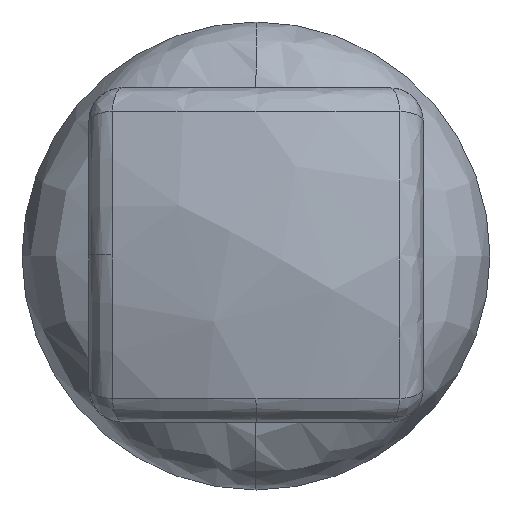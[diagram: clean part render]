
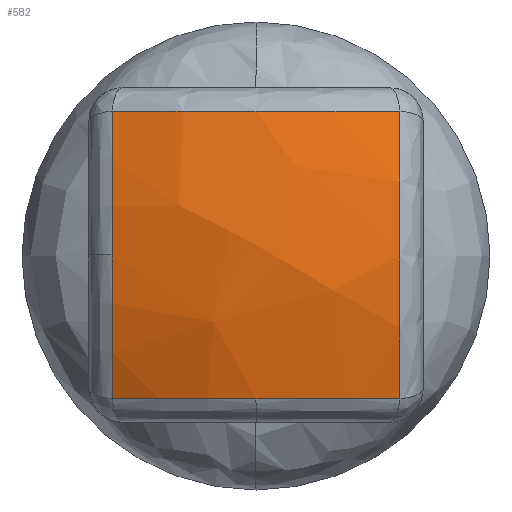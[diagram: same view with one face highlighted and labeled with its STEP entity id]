
A CAD part, front view. The second image highlights one B-rep face of the part: STEP entity #582.
In plain terms, the highlighted free-form (B-spline) face has degree [3, 3] with [4, 4] control points.
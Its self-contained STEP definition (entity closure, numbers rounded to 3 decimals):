
#100 = VERTEX_POINT ( 'NONE', #968 ) ;
#102 = EDGE_CURVE ( 'NONE', #100, #103, #967, .T. ) ;
#103 = VERTEX_POINT ( 'NONE', #962 ) ;
#122 = EDGE_CURVE ( 'NONE', #128, #147, #1186, .T. ) ;
#128 = VERTEX_POINT ( 'NONE', #1199 ) ;
#147 = VERTEX_POINT ( 'NONE', #1157 ) ;
#380 = VERTEX_POINT ( 'NONE', #2631 ) ;
#381 = VERTEX_POINT ( 'NONE', #2630 ) ;
#563 = ORIENTED_EDGE ( 'NONE', *, *, #564, .F. ) ;
#564 = EDGE_CURVE ( 'NONE', #147, #380, #2456, .T. ) ;
#565 = ORIENTED_EDGE ( 'NONE', *, *, #122, .F. ) ;
#566 = ORIENTED_EDGE ( 'NONE', *, *, #567, .F. ) ;
#567 = EDGE_CURVE ( 'NONE', #103, #128, #2418, .T. ) ;
#568 = ORIENTED_EDGE ( 'NONE', *, *, #102, .F. ) ;
#570 = ORIENTED_EDGE ( 'NONE', *, *, #571, .F. ) ;
#571 = EDGE_CURVE ( 'NONE', #381, #100, #2471, .T. ) ;
#582 = ADVANCED_FACE ( 'NONE', ( #2465 ), #2477, .T. ) ;
#583 = EDGE_LOOP ( 'NONE', ( #584, #563, #565, #566, #568, #570 ) ) ;
#584 = ORIENTED_EDGE ( 'NONE', *, *, #585, .F. ) ;
#585 = EDGE_CURVE ( 'NONE', #380, #381, #2478, .T. ) ;
#962 = CARTESIAN_POINT ( 'NONE',  ( 81.157, 300.657, 748.783 ) ) ;
#963 = DIRECTION ( 'NONE',  ( 0., -1., 0. ) ) ;
#964 = DIRECTION ( 'NONE',  ( 0., 0., -1. ) ) ;
#965 = CARTESIAN_POINT ( 'NONE',  ( 89.765, 326.187, 748.783 ) ) ;
#966 = AXIS2_PLACEMENT_3D ( 'NONE', #965, #964, #963 ) ;
#967 = CIRCLE ( 'NONE', #966, 26.942 ) ;
#968 = CARTESIAN_POINT ( 'NONE',  ( 89.765, 299.245, 748.783 ) ) ;
#1136 = DIRECTION ( 'NONE',  ( 0., -1., 0. ) ) ;
#1137 = DIRECTION ( 'NONE',  ( -1., 0., 0. ) ) ;
#1138 = CARTESIAN_POINT ( 'NONE',  ( 81.157, 326.187, 757.392 ) ) ;
#1157 = CARTESIAN_POINT ( 'NONE',  ( 81.157, 300.657, 766.001 ) ) ;
#1185 = AXIS2_PLACEMENT_3D ( 'NONE', #1138, #1137, #1136 ) ;
#1186 = CIRCLE ( 'NONE', #1185, 26.942 ) ;
#1199 = CARTESIAN_POINT ( 'NONE',  ( 81.157, 299.245, 757.392 ) ) ;
#2413 = CARTESIAN_POINT ( 'NONE',  ( 89.765, 326.187, 748.783 ) ) ;
#2414 = DIRECTION ( 'NONE',  ( 0., -1., 0. ) ) ;
#2415 = DIRECTION ( 'NONE',  ( -1., 0., 0. ) ) ;
#2416 = CARTESIAN_POINT ( 'NONE',  ( 81.157, 326.187, 757.392 ) ) ;
#2417 = AXIS2_PLACEMENT_3D ( 'NONE', #2416, #2415, #2414 ) ;
#2418 = CIRCLE ( 'NONE', #2417, 26.942 ) ;
#2419 = DIRECTION ( 'NONE',  ( 0., 1., 0. ) ) ;
#2445 = DIRECTION ( 'NONE',  ( 0., 1., 0. ) ) ;
#2446 = DIRECTION ( 'NONE',  ( 1., 0., 0. ) ) ;
#2447 = CARTESIAN_POINT ( 'NONE',  ( 81.667, 301.689, 745.805 ) ) ;
#2448 = CARTESIAN_POINT ( 'NONE',  ( 80.512, 299.262, 751.743 ) ) ;
#2449 = CARTESIAN_POINT ( 'NONE',  ( 78.634, 299.387, 757.984 ) ) ;
#2450 = CARTESIAN_POINT ( 'NONE',  ( 76.348, 302.043, 763.48 ) ) ;
#2451 = CARTESIAN_POINT ( 'NONE',  ( 88.81, 299.16, 746.16 ) ) ;
#2452 = CARTESIAN_POINT ( 'NONE',  ( 87.435, 296.268, 753.235 ) ) ;
#2453 = CARTESIAN_POINT ( 'NONE',  ( 85.197, 296.417, 760.67 ) ) ;
#2454 = DIRECTION ( 'NONE',  ( 0., 0., 1. ) ) ;
#2455 = AXIS2_PLACEMENT_3D ( 'NONE', #2490, #2454, #2419 ) ;
#2456 = CIRCLE ( 'NONE', #2455, 26.942 ) ;
#2465 = FACE_OUTER_BOUND ( 'NONE', #583, .T. ) ;
#2468 = DIRECTION ( 'NONE',  ( 0., -1., 0. ) ) ;
#2469 = DIRECTION ( 'NONE',  ( 0., 0., -1. ) ) ;
#2470 = AXIS2_PLACEMENT_3D ( 'NONE', #2413, #2469, #2468 ) ;
#2471 = CIRCLE ( 'NONE', #2470, 26.942 ) ;
#2475 = CARTESIAN_POINT ( 'NONE',  ( 98.374, 326.187, 757.392 ) ) ;
#2476 = AXIS2_PLACEMENT_3D ( 'NONE', #2475, #2446, #2445 ) ;
#2477 =( BOUNDED_SURFACE ( )  B_SPLINE_SURFACE ( 3, 3, ( 
 ( #2489, #2488, #2487, #2486 ),
 ( #2485, #2484, #2483, #2482 ),
 ( #2481, #2453, #2452, #2451 ),
 ( #2450, #2449, #2448, #2447 ) ),
 .UNSPECIFIED., .F., .F., .F. ) 
 B_SPLINE_SURFACE_WITH_KNOTS ( ( 4, 4 ),
 ( 4, 4 ),
 ( 0., 1. ),
 ( 0., 1. ),
 .UNSPECIFIED. ) 
 GEOMETRIC_REPRESENTATION_ITEM ( )  RATIONAL_B_SPLINE_SURFACE ( (
 ( 1., 0.944, 0.944, 1.),
 ( 0.949, 0.896, 0.896, 0.949),
 ( 0.949, 0.896, 0.896, 0.949),
 ( 1., 0.944, 0.944, 1.) ) ) 
 REPRESENTATION_ITEM ( '' )  SURFACE ( )  );
#2478 = CIRCLE ( 'NONE', #2476, 26.942 ) ;
#2481 = CARTESIAN_POINT ( 'NONE',  ( 82.474, 299.582, 767.218 ) ) ;
#2482 = CARTESIAN_POINT ( 'NONE',  ( 96.242, 299.332, 747.675 ) ) ;
#2483 = CARTESIAN_POINT ( 'NONE',  ( 94.78, 296.26, 755.192 ) ) ;
#2484 = CARTESIAN_POINT ( 'NONE',  ( 92.403, 296.418, 763.092 ) ) ;
#2485 = CARTESIAN_POINT ( 'NONE',  ( 89.509, 299.781, 770.049 ) ) ;
#2486 = CARTESIAN_POINT ( 'NONE',  ( 102.834, 302.18, 750.121 ) ) ;
#2487 = CARTESIAN_POINT ( 'NONE',  ( 101.435, 299.238, 757.318 ) ) ;
#2488 = CARTESIAN_POINT ( 'NONE',  ( 99.159, 299.39, 764.882 ) ) ;
#2489 = CARTESIAN_POINT ( 'NONE',  ( 96.388, 302.61, 771.543 ) ) ;
#2490 = CARTESIAN_POINT ( 'NONE',  ( 89.765, 326.187, 766.001 ) ) ;
#2630 = CARTESIAN_POINT ( 'NONE',  ( 98.374, 300.657, 748.783 ) ) ;
#2631 = CARTESIAN_POINT ( 'NONE',  ( 98.374, 300.657, 766.001 ) ) ;
